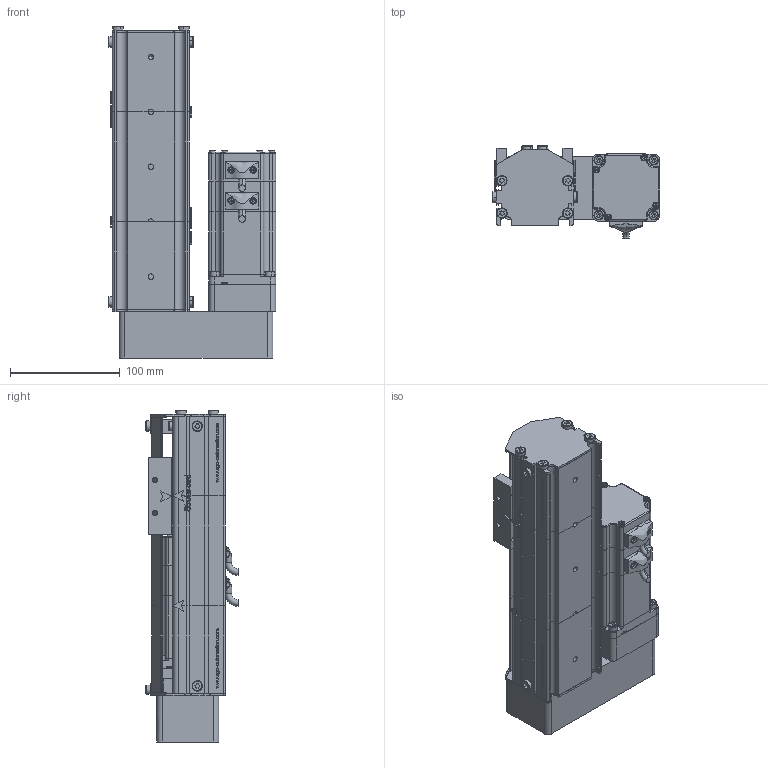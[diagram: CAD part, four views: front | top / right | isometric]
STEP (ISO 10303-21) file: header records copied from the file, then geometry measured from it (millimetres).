
FILE_DESCRIPTION (( 'STEP AP214' ), '1' );
FILE_NAME ('S07 TS BR S100.STEP', '2010-06-29T11:05:33', ( 'Conseil Régional Haute-Normandie' ), ( 'Conseil Régional Haute-Normandie' ), 'SwSTEP 2.0', 'SolidWorks 2010', '' );
FILE_SCHEMA (( 'AUTOMOTIVE_DESIGN' ));
Length unit declared in the file: millimetre
Products named in the file (35): T皻e d''axe Haut 2_Default; T皻e d''axe bas_Default; Course 100_Default; Corp S07 course 100_Default; couvercle S07 course 100 ; S07 tail (78)_Default; corp couvert coupé_Default; arbre + rail Course 100 ; vis M5 L5_Default; rail S07 moteur; S07 TS BR S100; plaque de bout BR_Default; GMB 60 90 310_Default; arbre S07 moteur; Plaque racord_Default; Axe 60BLDC_Default; couvercle moteur S07 BR(124); Arbre+rail tail78; P1_Default; Conecteur 60BLDC_Default; P2 90A_Default; P4_Default; P3 90A_Default; plaque de bout_Default; vis M5 L16_Default; vis M5 L12_Default; couvercle S07 (78); S07 BR(124)_Default; corp moteur BR(124)_Default; guide; Conecteur2 60BLDC_Default; chariot_Default; Chariot; VisM3_Default; Vis M5 L16-2_Default
Assembly tree (61 placements, depth 4):
  S07 TS BR S100
    Course 100_Default
      couvercle S07 course 100 
      Corp S07 course 100_Default
      arbre + rail Course 100 
    chariot_Default
      vis M5 L12_Default  x2
      guide
      Chariot
    S07 tail (78)_Default
      corp couvert coupé_Default
      T皻e d''axe Haut 2_Default
      vis M5 L12_Default  x8
      T皻e d''axe bas_Default
      plaque de bout_Default
      couvercle S07 (78)
      vis M5 L16_Default  x2
      Arbre+rail tail78
    S07 BR(124)_Default
      couvercle moteur S07 BR(124)
      Vis M5 L16-2_Default  x4
      arbre S07 moteur
      corp moteur BR(124)_Default
      Plaque racord_Default
      vis M5 L5_Default  x2
      plaque de bout BR_Default
      vis M5 L12_Default  x2
      rail S07 moteur
      GMB 60 90 310_Default
        Conecteur2 60BLDC_Default
        VisM3_Default  x12
        P2 90A_Default
        Axe 60BLDC_Default
        P3 90A_Default
        P4_Default
        Conecteur 60BLDC_Default
        P1_Default
Bounding box: 152.2 x 83.7 x 302 mm (x, y, z)
Volume: 1257407.7 mm3; surface area: 368226 mm2
Topology: 82 solids, 82 shells, 3326 faces, 8400 edges, 5455 vertices
Faces by surface type: plane 1891, bspline 677, cylinder 573, torus 96, cone 89
Entity records: 157516 total; most frequent: CARTESIAN_POINT 73461, ORIENTED_EDGE 14056, DIRECTION 10759, EDGE_CURVE 7028, VERTEX_POINT 4645, LINE 4637, VECTOR 4637, AXIS2_PLACEMENT_3D 3061
